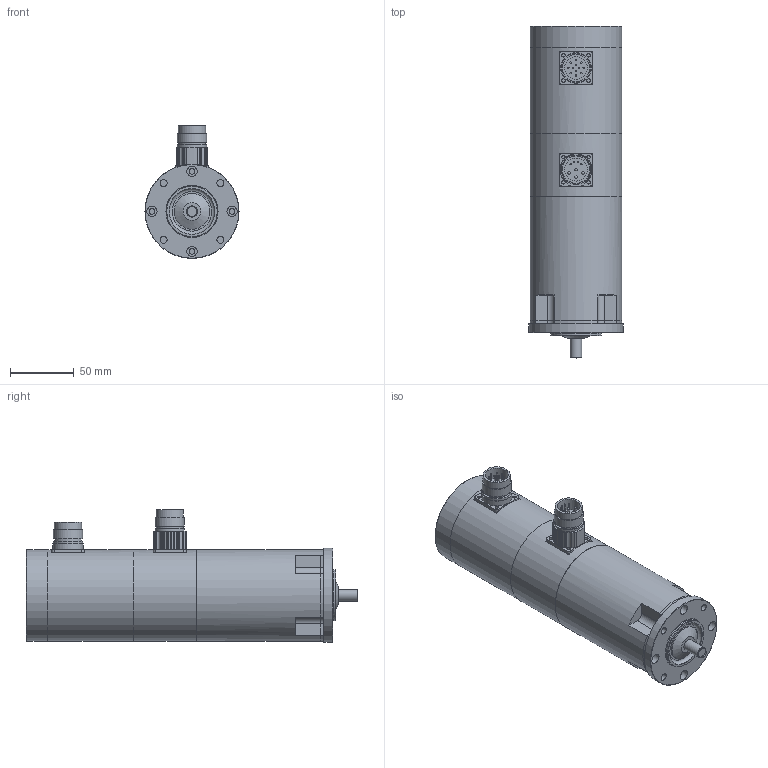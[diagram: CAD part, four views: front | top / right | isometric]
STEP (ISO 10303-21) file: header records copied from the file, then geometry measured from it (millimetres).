
FILE_DESCRIPTION(/* description */ (''),/* implementation_level */ '2;1');
FILE_NAME(/* name */ 'ksy_168e_md_rx',/* time_stamp */ '2007-03-16T13:07:26+01:00',/* author */ (''),/* organization */ (''),/* preprocessor_version */ 'ST-DEVELOPER v8',/* originating_system */ 'UNIGRAPHICS SOLUTIONS - UNIGRAPHICS 18.0',/* authorisation */ '');
FILE_SCHEMA (('AUTOMOTIVE_DESIGN { 1 2 10303 214 0 1 1 1 }'));
Length unit declared in the file: millimetre
Products named in the file (11): 014261_0; 014260_0; 064311_0; 064310_0; 111022_0; 06330401_0; DIN3760_org_A10x24x7_0; Rotor_SY 16.. E_0; Gehaeuse_SY 16.. E_0; 111014_0; KSY164_E-MD-RC_0
Assembly tree (10 placements, depth 2):
  KSY164_E-MD-RC_0
    111014_0
    Gehaeuse_SY 16.. E_0
    Rotor_SY 16.. E_0
    DIN3760_org_A10x24x7_0
    06330401_0
    111022_0
    064310_0
    064311_0
    014260_0
    014261_0
Bounding box: 74 x 261 x 104.5 mm (x, y, z)
Volume: 833538.1 mm3; surface area: 128705.5 mm2
Topology: 10 solids, 10 shells, 288 faces, 727 edges, 469 vertices
Faces by surface type: cylinder 152, plane 92, sphere 20, cone 15, torus 9
Full cylindrical faces by diameter (mm): 1 x16, 2 x4, 2.7 x8, 4.5 x4, 5.5 x4, 8 x4, 8.52 x1, 8.95 x1, 9 x1, 10 x2, 10.3 x1, 18 x2, 20 x5, 21 x3, 21.5 x2, 23 x4, 24 x3, 26 x1, 28 x1, 36 x1, 40 x1, 49.3 x1, 51 x3, 72 x4, 74 x1
Entity records: 7819 total; most frequent: DIRECTION 1458, CARTESIAN_POINT 1214, ORIENTED_EDGE 1026, AXIS2_PLACEMENT_3D 646, EDGE_CURVE 513, EDGE_LOOP 480, VERTEX_POINT 402, CIRCLE 347
